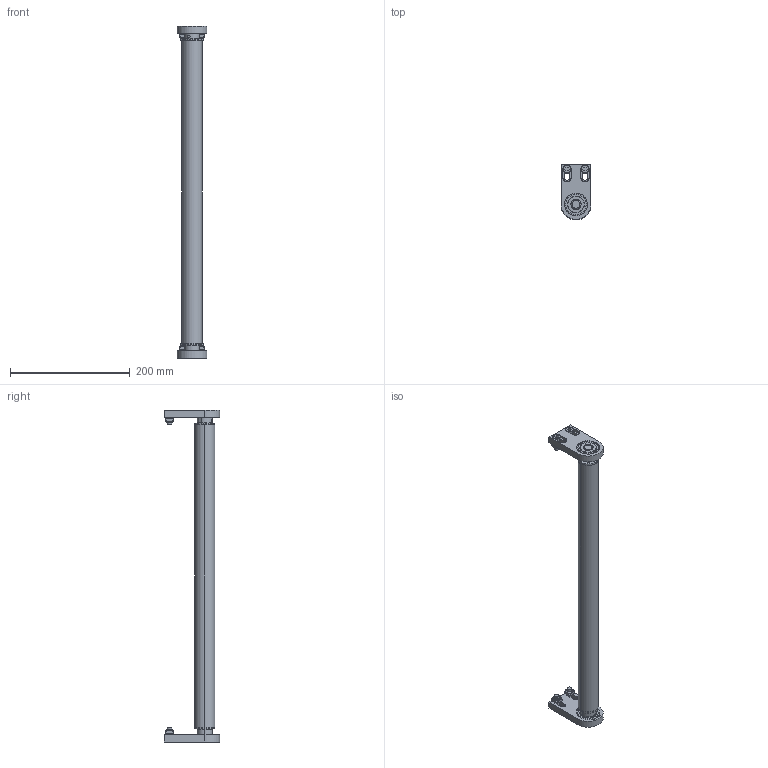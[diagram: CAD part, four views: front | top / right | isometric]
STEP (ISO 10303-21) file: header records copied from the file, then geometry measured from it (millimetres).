
FILE_DESCRIPTION (( 'STEP AP203' ), '1' );
FILE_NAME ('084.050.KSS.500.STEP', '2019-07-30T06:52:03', ( '' ), ( '' ), 'SwSTEP 2.0', 'SolidWorks 2018', '' );
FILE_SCHEMA (( 'CONFIG_CONTROL_DESIGN' ));
Length unit declared in the file: millimetre
Products named in the file (8): 084.802.014; 084.802.028; 084.802.029-505; 084.301.000 VITI ALUSIC_084.301.003; 084.802.017_084.802.017; 084.050.KSS.500; 084.302.000 DADI ALUSIC 13x13-1_084.302.004; 084.802.013-2
Assembly tree (17 placements, depth 2):
  084.050.KSS.500
    084.802.029-505
    084.301.000 VITI ALUSIC_084.301.003  x4
    084.302.000 DADI ALUSIC 13x13-1_084.302.004  x4
    084.802.017_084.802.017  x2
    084.802.028  x2
    084.802.014  x2
    084.802.013-2  x2
Bounding box: 50 x 92.5 x 555 mm (x, y, z)
Volume: 262214.2 mm3; surface area: 174269.1 mm2
Topology: 19 solids, 21 shells, 384 faces, 910 edges, 582 vertices
Faces by surface type: plane 142, cylinder 134, torus 52, cone 32, bspline 16, sphere 8
Entity records: 5980 total; most frequent: CARTESIAN_POINT 1263, DIRECTION 820, ORIENTED_EDGE 700, EDGE_CURVE 350, AXIS2_PLACEMENT_3D 339, VERTEX_POINT 224, EDGE_LOOP 182, CIRCLE 170
